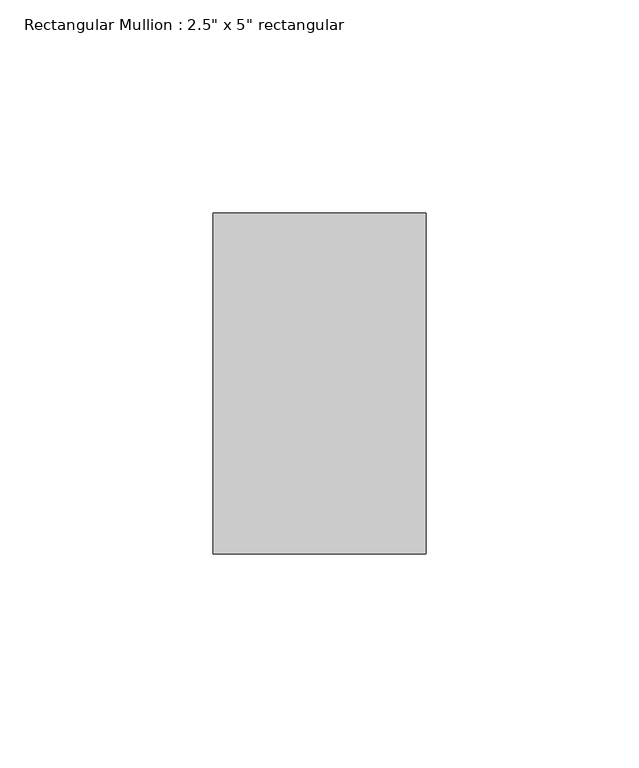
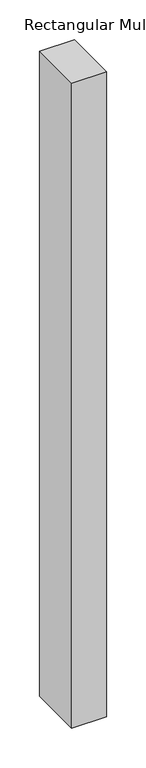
"""IFC4 building model written with IfcOpenShell, lengths in millimetres: member geometry."""

from ifc_helpers import new_model, si_unit, frame, origin, place, context, project, spatial, polyline, outline, extrude, source, transform, mapped, element, save


def member_066fb714(model_context):
    return source(origin(), model_context, "Body", "SweptSolid", [
        extrude(outline(polyline([(25.0, 40.0), (25.0, -40.0), (-25.0, -40.0), (-25.0, 40.0), (25.0, 40.0)])), frame((0.0, 0.0, -985.0), z_axis=(0.0, 0.0, 1.0), x_axis=(1.0, 0.0, 0.0)), (0.0, 0.0, 1.0), 985.0),
    ])


if __name__ == "__main__":
    model = new_model("IFC4")
    model_context = context("Model", 3, world=origin())
    ifc_project = project(units=[si_unit("LENGTHUNIT", "METRE", prefix="MILLI")], contexts=[model_context])
    site = spatial("IfcSite", under=ifc_project)
    building = spatial("IfcBuilding", under=site)
    placement = place(None, origin())
    member_shape = member_066fb714(model_context)
    element("IfcMember", 1, ObjectType="Rectangular Mullion : 2.5\" x 5\" rectangular", at=placement, inside=building, context=model_context, shape_type="MappedRepresentation", body=[
        mapped(member_shape, transform((0.0, 0.0, 0.0), x_axis=(1.0, 0.0, 0.0), y_axis=(0.0, 1.0, 0.0), z_axis=(0.0, 0.0, 1.0))),
    ])
    save(model, "model.ifc")
